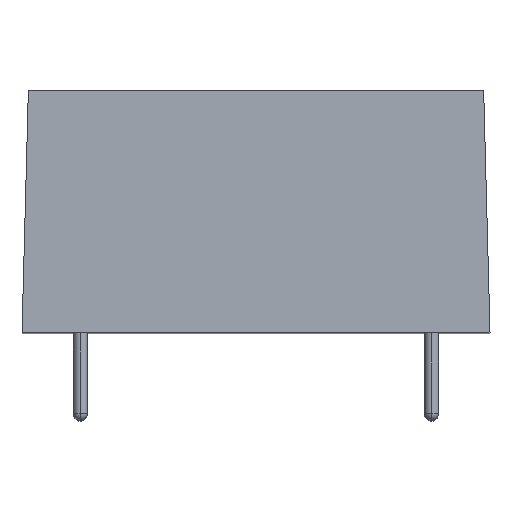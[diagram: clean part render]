
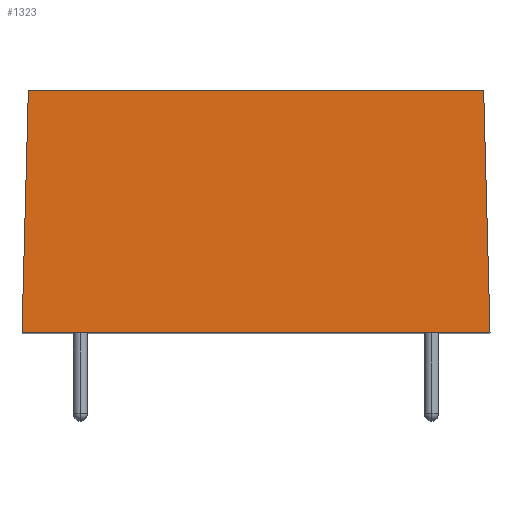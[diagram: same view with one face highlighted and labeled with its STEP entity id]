
A CAD part, top view. The second image highlights one B-rep face of the part: STEP entity #1323.
In plain terms, the highlighted planar face has unit normal (0, 0.026, 1).
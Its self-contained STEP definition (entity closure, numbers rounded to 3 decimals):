
#121 = CARTESIAN_POINT ( 'NONE',  ( 10.128, 0.832, 15.878 ) ) ;
#188 = LINE ( 'NONE', #668, #197 ) ;
#197 = VECTOR ( 'NONE', #1303, 1000. ) ;
#201 = EDGE_CURVE ( 'NONE', #1069, #777, #539, .T. ) ;
#230 = DIRECTION ( 'NONE',  ( 0.026, -0.999, 0.026 ) ) ;
#264 = EDGE_CURVE ( 'NONE', #581, #777, #481, .T. ) ;
#269 = CARTESIAN_POINT ( 'NONE',  ( -10.15, 0., 15.9 ) ) ;
#327 = ORIENTED_EDGE ( 'NONE', *, *, #201, .T. ) ;
#356 = EDGE_CURVE ( 'NONE', #640, #1069, #188, .T. ) ;
#357 = DIRECTION ( 'NONE',  ( 0., -1., 0.026 ) ) ;
#403 = ORIENTED_EDGE ( 'NONE', *, *, #356, .T. ) ;
#442 = CARTESIAN_POINT ( 'NONE',  ( -10.15, 0., 15.9 ) ) ;
#461 = EDGE_LOOP ( 'NONE', ( #327, #1257, #969, #403 ) ) ;
#481 = LINE ( 'NONE', #121, #1222 ) ;
#539 = LINE ( 'NONE', #442, #655 ) ;
#581 = VERTEX_POINT ( 'NONE', #724 ) ;
#593 = CARTESIAN_POINT ( 'NONE',  ( -10.15, 10.5, 15.625 ) ) ;
#640 = VERTEX_POINT ( 'NONE', #816 ) ;
#655 = VECTOR ( 'NONE', #1081, 1000. ) ;
#668 = CARTESIAN_POINT ( 'NONE',  ( -10.15, 0., 15.9 ) ) ;
#672 = DIRECTION ( 'NONE',  ( 0., 0.026, 1. ) ) ;
#724 = CARTESIAN_POINT ( 'NONE',  ( 9.875, 10.5, 15.625 ) ) ;
#777 = VERTEX_POINT ( 'NONE', #1360 ) ;
#816 = CARTESIAN_POINT ( 'NONE',  ( -9.875, 10.5, 15.625 ) ) ;
#817 = AXIS2_PLACEMENT_3D ( 'NONE', #883, #672, #357 ) ;
#844 = PLANE ( 'NONE',  #817 ) ;
#883 = CARTESIAN_POINT ( 'NONE',  ( -10.15, 0., 15.9 ) ) ;
#969 = ORIENTED_EDGE ( 'NONE', *, *, #1041, .F. ) ;
#976 = FACE_OUTER_BOUND ( 'NONE', #461, .T. ) ;
#1041 = EDGE_CURVE ( 'NONE', #640, #581, #1375, .T. ) ;
#1069 = VERTEX_POINT ( 'NONE', #269 ) ;
#1081 = DIRECTION ( 'NONE',  ( 1., 0., 0. ) ) ;
#1222 = VECTOR ( 'NONE', #230, 1000. ) ;
#1257 = ORIENTED_EDGE ( 'NONE', *, *, #264, .F. ) ;
#1290 = VECTOR ( 'NONE', #1320, 1000. ) ;
#1303 = DIRECTION ( 'NONE',  ( -0.026, -0.999, 0.026 ) ) ;
#1320 = DIRECTION ( 'NONE',  ( 1., 0., 0. ) ) ;
#1323 = ADVANCED_FACE ( 'NONE', ( #976 ), #844, .T. ) ;
#1360 = CARTESIAN_POINT ( 'NONE',  ( 10.15, 0., 15.9 ) ) ;
#1375 = LINE ( 'NONE', #593, #1290 ) ;
